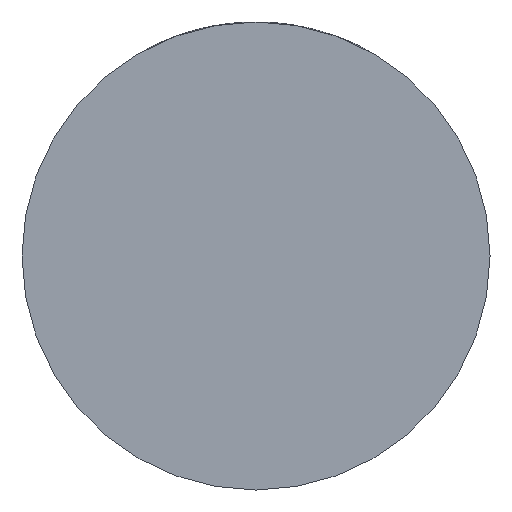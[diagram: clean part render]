
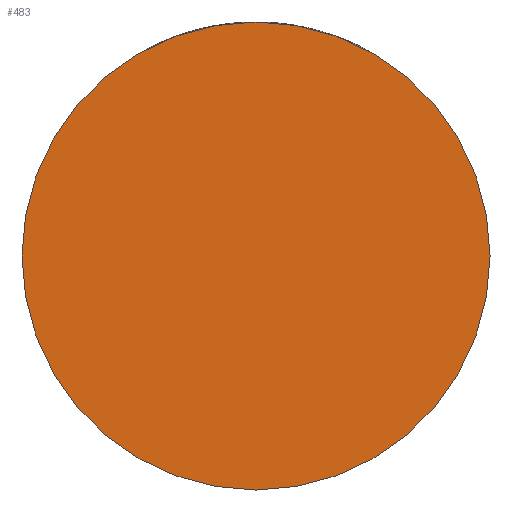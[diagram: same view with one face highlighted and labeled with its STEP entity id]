
A CAD part, front view. The second image highlights one B-rep face of the part: STEP entity #483.
In plain terms, the highlighted planar face has unit normal (0, -1, 0).
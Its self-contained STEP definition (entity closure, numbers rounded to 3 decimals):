
#96 = AXIS2_PLACEMENT_3D ( 'NONE', #3944, #3643, #677 ) ;
#173 = DIRECTION ( 'NONE',  ( 1., 0., 0. ) ) ;
#258 = CIRCLE ( 'NONE', #2376, 64. ) ;
#305 = CARTESIAN_POINT ( 'NONE',  ( 0., -60., 0. ) ) ;
#483 = ADVANCED_FACE ( 'NONE', ( #3575 ), #1054, .T. ) ;
#668 = ORIENTED_EDGE ( 'NONE', *, *, #1542, .T. ) ;
#677 = DIRECTION ( 'NONE',  ( 1., 0., 0. ) ) ;
#754 = VERTEX_POINT ( 'NONE', #3835 ) ;
#774 = AXIS2_PLACEMENT_3D ( 'NONE', #1251, #3418, #173 ) ;
#998 = ORIENTED_EDGE ( 'NONE', *, *, #2342, .T. ) ;
#1054 = PLANE ( 'NONE',  #96 ) ;
#1152 = VERTEX_POINT ( 'NONE', #1594 ) ;
#1251 = CARTESIAN_POINT ( 'NONE',  ( 0., -60., 0. ) ) ;
#1357 = DIRECTION ( 'NONE',  ( 0., -1., 0. ) ) ;
#1542 = EDGE_CURVE ( 'NONE', #1152, #754, #3273, .T. ) ;
#1594 = CARTESIAN_POINT ( 'NONE',  ( 64., -60., 0. ) ) ;
#2342 = EDGE_CURVE ( 'NONE', #754, #1152, #258, .T. ) ;
#2376 = AXIS2_PLACEMENT_3D ( 'NONE', #305, #1357, #3508 ) ;
#3273 = CIRCLE ( 'NONE', #774, 64. ) ;
#3418 = DIRECTION ( 'NONE',  ( 0., -1., 0. ) ) ;
#3508 = DIRECTION ( 'NONE',  ( 1., 0., 0. ) ) ;
#3575 = FACE_OUTER_BOUND ( 'NONE', #4490, .T. ) ;
#3643 = DIRECTION ( 'NONE',  ( 0., -1., 0. ) ) ;
#3835 = CARTESIAN_POINT ( 'NONE',  ( -64., -60., 0. ) ) ;
#3944 = CARTESIAN_POINT ( 'NONE',  ( 0., -60., 0. ) ) ;
#4490 = EDGE_LOOP ( 'NONE', ( #998, #668 ) ) ;
